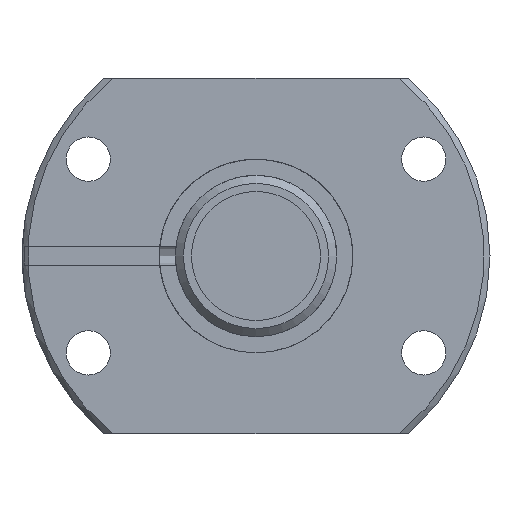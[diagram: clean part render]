
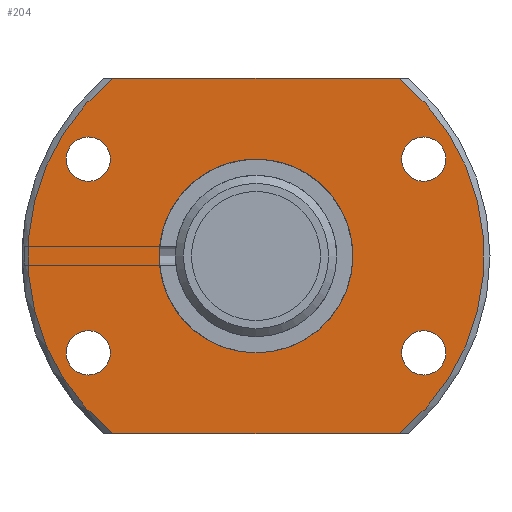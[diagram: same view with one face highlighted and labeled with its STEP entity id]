
A CAD part, left-side view. The second image highlights one B-rep face of the part: STEP entity #204.
In plain terms, the highlighted planar face has unit normal (-1, 0, 0).
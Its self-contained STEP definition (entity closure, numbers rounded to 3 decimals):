
#204 = ADVANCED_FACE( '', ( #311, #312, #313, #314, #315, #316 ), #317, .T. );
#311 = FACE_BOUND( '', #427, .T. );
#312 = FACE_OUTER_BOUND( '', #428, .T. );
#313 = FACE_BOUND( '', #429, .T. );
#314 = FACE_BOUND( '', #430, .T. );
#315 = FACE_BOUND( '', #431, .T. );
#316 = FACE_BOUND( '', #432, .T. );
#317 = PLANE( '', #433 );
#427 = EDGE_LOOP( '', ( #642 ) );
#428 = EDGE_LOOP( '', ( #643, #644, #645, #646 ) );
#429 = EDGE_LOOP( '', ( #647 ) );
#430 = EDGE_LOOP( '', ( #648 ) );
#431 = EDGE_LOOP( '', ( #649 ) );
#432 = EDGE_LOOP( '', ( #650 ) );
#433 = AXIS2_PLACEMENT_3D( '', #651, #652, #653 );
#642 = ORIENTED_EDGE( '', *, *, #718, .T. );
#643 = ORIENTED_EDGE( '', *, *, #738, .F. );
#644 = ORIENTED_EDGE( '', *, *, #703, .F. );
#645 = ORIENTED_EDGE( '', *, *, #709, .F. );
#646 = ORIENTED_EDGE( '', *, *, #739, .F. );
#647 = ORIENTED_EDGE( '', *, *, #695, .T. );
#648 = ORIENTED_EDGE( '', *, *, #697, .T. );
#649 = ORIENTED_EDGE( '', *, *, #699, .T. );
#650 = ORIENTED_EDGE( '', *, *, #701, .T. );
#651 = CARTESIAN_POINT( '', ( 0., 56.55, 0. ) );
#652 = DIRECTION( '', ( -1., 0., 0. ) );
#653 = DIRECTION( '', ( 0., 0., 1. ) );
#695 = EDGE_CURVE( '', #771, #771, #772, .T. );
#697 = EDGE_CURVE( '', #775, #775, #776, .T. );
#699 = EDGE_CURVE( '', #779, #779, #780, .T. );
#701 = EDGE_CURVE( '', #783, #783, #784, .T. );
#703 = EDGE_CURVE( '', #785, #788, #789, .T. );
#709 = EDGE_CURVE( '', #798, #785, #800, .T. );
#718 = EDGE_CURVE( '', #815, #815, #816, .T. );
#738 = EDGE_CURVE( '', #788, #849, #850, .T. );
#739 = EDGE_CURVE( '', #849, #798, #851, .T. );
#771 = VERTEX_POINT( '', #944 );
#772 = CIRCLE( '', #945, 5.5 );
#775 = VERTEX_POINT( '', #948 );
#776 = CIRCLE( '', #949, 5.5 );
#779 = VERTEX_POINT( '', #952 );
#780 = CIRCLE( '', #953, 5.5 );
#783 = VERTEX_POINT( '', #956 );
#784 = CIRCLE( '', #957, 5.5 );
#785 = VERTEX_POINT( '', #958 );
#788 = VERTEX_POINT( '', #964 );
#789 = CIRCLE( '', #965, 56.55 );
#798 = VERTEX_POINT( '', #981 );
#800 = LINE( '', #986, #987 );
#815 = VERTEX_POINT( '', #1043 );
#816 = CIRCLE( '', #1044, 24. );
#849 = VERTEX_POINT( '', #1118 );
#850 = LINE( '', #1119, #1120 );
#851 = CIRCLE( '', #1121, 56.55 );
#944 = CARTESIAN_POINT( '', ( 0., 41.569, -29.5 ) );
#945 = AXIS2_PLACEMENT_3D( '', #1168, #1169, #1170 );
#948 = CARTESIAN_POINT( '', ( 0., -41.569, -29.5 ) );
#949 = AXIS2_PLACEMENT_3D( '', #1174, #1175, #1176 );
#952 = CARTESIAN_POINT( '', ( 0., -41.569, 18.5 ) );
#953 = AXIS2_PLACEMENT_3D( '', #1180, #1181, #1182 );
#956 = CARTESIAN_POINT( '', ( 0., 41.569, 18.5 ) );
#957 = AXIS2_PLACEMENT_3D( '', #1186, #1187, #1188 );
#958 = CARTESIAN_POINT( '', ( 0., 35.523, -44. ) );
#964 = CARTESIAN_POINT( '', ( 0., 35.523, 44. ) );
#965 = AXIS2_PLACEMENT_3D( '', #1189, #1190, #1191 );
#981 = CARTESIAN_POINT( '', ( 0., -35.523, -44. ) );
#986 = CARTESIAN_POINT( '', ( 0., -58.1, -44. ) );
#987 = VECTOR( '', #1196, 1000. );
#1043 = CARTESIAN_POINT( '', ( 0., 0., -24. ) );
#1044 = AXIS2_PLACEMENT_3D( '', #1208, #1209, #1210 );
#1118 = CARTESIAN_POINT( '', ( 0., -35.523, 44. ) );
#1119 = CARTESIAN_POINT( '', ( 0., 58.1, 44. ) );
#1120 = VECTOR( '', #1252, 1000. );
#1121 = AXIS2_PLACEMENT_3D( '', #1253, #1254, #1255 );
#1168 = CARTESIAN_POINT( '', ( 0., 41.569, -24. ) );
#1169 = DIRECTION( '', ( 1., 0., 0. ) );
#1170 = DIRECTION( '', ( 0., 0., -1. ) );
#1174 = CARTESIAN_POINT( '', ( 0., -41.569, -24. ) );
#1175 = DIRECTION( '', ( 1., 0., 0. ) );
#1176 = DIRECTION( '', ( 0., 0., -1. ) );
#1180 = CARTESIAN_POINT( '', ( 0., -41.569, 24. ) );
#1181 = DIRECTION( '', ( 1., 0., 0. ) );
#1182 = DIRECTION( '', ( 0., 0., -1. ) );
#1186 = CARTESIAN_POINT( '', ( 0., 41.569, 24. ) );
#1187 = DIRECTION( '', ( 1., 0., 0. ) );
#1188 = DIRECTION( '', ( 0., 0., -1. ) );
#1189 = CARTESIAN_POINT( '', ( 0., 0., 0. ) );
#1190 = DIRECTION( '', ( 1., 0., 0. ) );
#1191 = DIRECTION( '', ( 0., 0., -1. ) );
#1196 = DIRECTION( '', ( 0., 1., 0. ) );
#1208 = CARTESIAN_POINT( '', ( 0., 0., 0. ) );
#1209 = DIRECTION( '', ( 1., 0., 0. ) );
#1210 = DIRECTION( '', ( 0., 0., -1. ) );
#1252 = DIRECTION( '', ( 0., -1., 0. ) );
#1253 = CARTESIAN_POINT( '', ( 0., 0., 0. ) );
#1254 = DIRECTION( '', ( 1., 0., 0. ) );
#1255 = DIRECTION( '', ( 0., 0., -1. ) );
